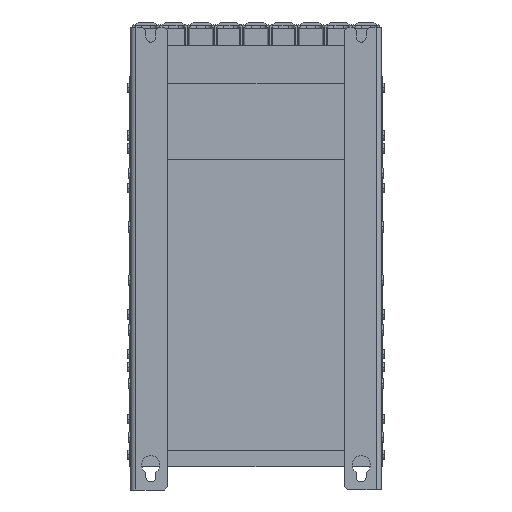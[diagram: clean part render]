
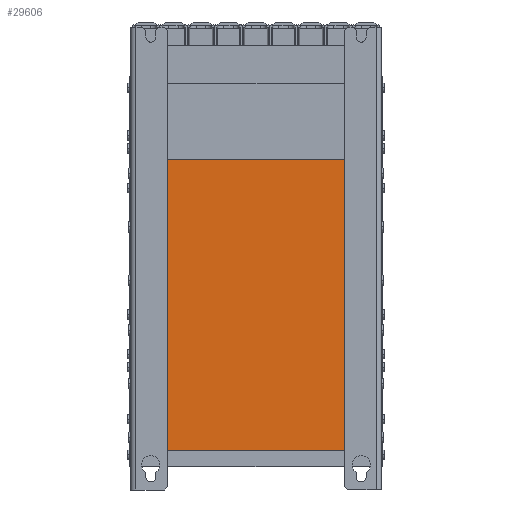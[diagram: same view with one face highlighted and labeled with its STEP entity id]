
A CAD part, front view. The second image highlights one B-rep face of the part: STEP entity #29606.
In plain terms, the highlighted planar face has unit normal (0, -1, 0).
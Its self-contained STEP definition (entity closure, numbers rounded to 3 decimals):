
#10942 = CARTESIAN_POINT ( 'NONE',  ( 160.464, -126.5, 570.5 ) ) ;
#16149 = DIRECTION ( 'NONE',  ( 1., 0., 0. ) ) ;
#17374 = VERTEX_POINT ( 'NONE', #96636 ) ;
#18432 = CARTESIAN_POINT ( 'NONE',  ( -160.464, -126.5, -34.5 ) ) ;
#24179 = CARTESIAN_POINT ( 'NONE',  ( -144., -126.5, -403. ) ) ;
#29043 = VERTEX_POINT ( 'NONE', #55010 ) ;
#29606 = ADVANCED_FACE ( 'NONE', ( #46597 ), #79174, .T. ) ;
#32236 = ORIENTED_EDGE ( 'NONE', *, *, #52491, .F. ) ;
#33191 = LINE ( 'NONE', #96789, #102200 ) ;
#33289 = CARTESIAN_POINT ( 'NONE',  ( 160.464, -126.5, 397. ) ) ;
#34966 = CARTESIAN_POINT ( 'NONE',  ( -160.464, -126.5, 397. ) ) ;
#36000 = LINE ( 'NONE', #18432, #58186 ) ;
#39283 = EDGE_LOOP ( 'NONE', ( #64243, #62153, #32236, #51786 ) ) ;
#40630 = VERTEX_POINT ( 'NONE', #34966 ) ;
#42630 = AXIS2_PLACEMENT_3D ( 'NONE', #24179, #79691, #105307 ) ;
#46597 = FACE_OUTER_BOUND ( 'NONE', #39283, .T. ) ;
#48101 = CARTESIAN_POINT ( 'NONE',  ( -144., -126.5, 397. ) ) ;
#50438 = DIRECTION ( 'NONE',  ( 0., 0., -1. ) ) ;
#51786 = ORIENTED_EDGE ( 'NONE', *, *, #62210, .F. ) ;
#52491 = EDGE_CURVE ( 'NONE', #40630, #95216, #64118, .T. ) ;
#55010 = CARTESIAN_POINT ( 'NONE',  ( 160.464, -126.5, 17. ) ) ;
#58186 = VECTOR ( 'NONE', #101169, 1000. ) ;
#62153 = ORIENTED_EDGE ( 'NONE', *, *, #73047, .F. ) ;
#62210 = EDGE_CURVE ( 'NONE', #17374, #40630, #36000, .T. ) ;
#64118 = LINE ( 'NONE', #48101, #72046 ) ;
#64243 = ORIENTED_EDGE ( 'NONE', *, *, #83783, .T. ) ;
#72046 = VECTOR ( 'NONE', #96713, 1000. ) ;
#73047 = EDGE_CURVE ( 'NONE', #95216, #29043, #91559, .T. ) ;
#79174 = PLANE ( 'NONE',  #42630 ) ;
#79691 = DIRECTION ( 'NONE',  ( 0., -1., 0. ) ) ;
#83783 = EDGE_CURVE ( 'NONE', #17374, #29043, #33191, .T. ) ;
#91559 = LINE ( 'NONE', #10942, #92716 ) ;
#92716 = VECTOR ( 'NONE', #50438, 1000. ) ;
#95216 = VERTEX_POINT ( 'NONE', #33289 ) ;
#96636 = CARTESIAN_POINT ( 'NONE',  ( -160.464, -126.5, 17. ) ) ;
#96713 = DIRECTION ( 'NONE',  ( 1., 0., 0. ) ) ;
#96789 = CARTESIAN_POINT ( 'NONE',  ( -164., -126.5, 17. ) ) ;
#101169 = DIRECTION ( 'NONE',  ( 0., 0., 1. ) ) ;
#102200 = VECTOR ( 'NONE', #16149, 1000. ) ;
#105307 = DIRECTION ( 'NONE',  ( 0., 0., -1. ) ) ;
